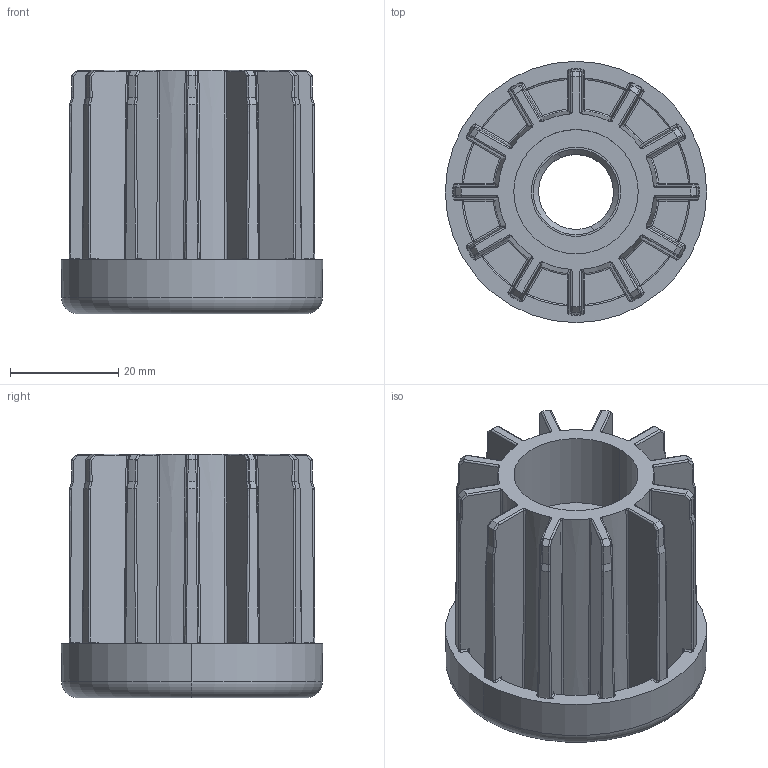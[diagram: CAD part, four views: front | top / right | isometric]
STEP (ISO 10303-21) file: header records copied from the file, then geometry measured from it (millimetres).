
FILE_DESCRIPTION(('CATIA V5 STEP Exchange'),'2;1');
FILE_NAME('X:\CODICI MOVEX\3D per clienti\Tom\P41501_01.stp','2012-10-19T07:36:56+00:00',('none'),('none'),'CATIA Version 5 Release 21 SP 1 (IN-10)','CATIA V5 STEP AP203','none');
FILE_SCHEMA(('CONFIG_CONTROL_DESIGN'));
Length unit declared in the file: millimetre
Products named in the file (1): Product1
Assembly tree (2 placements, depth 2):
  Product1
    #58
    #33427
Bounding box: 48.3 x 48.3 x 45 mm (x, y, z)
Volume: 35236.3 mm3; surface area: 21195 mm2
Topology: 2 solids, 2 shells, 931 faces, 2523 edges, 1560 vertices
Faces by surface type: plane 486, bspline 192, cylinder 115, cone 64, sphere 48, torus 26
Entity records: 33968 total; most frequent: CARTESIAN_POINT 14160, ORIENTED_EDGE 4950, DIRECTION 2627, EDGE_CURVE 2475, VERTEX_POINT 1560, B_SPLINE_CURVE_WITH_KNOTS 1176, VECTOR 1017, LINE 1017
